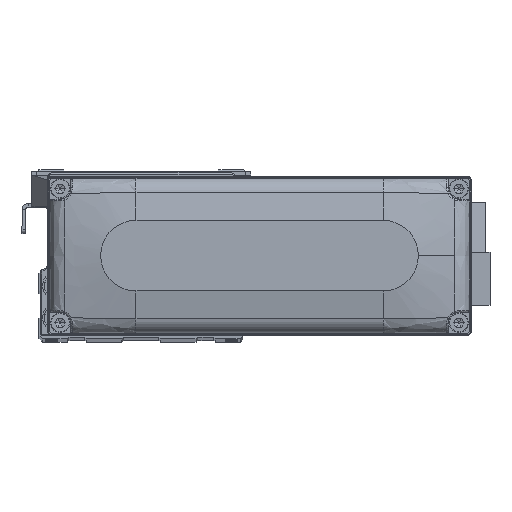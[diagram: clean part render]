
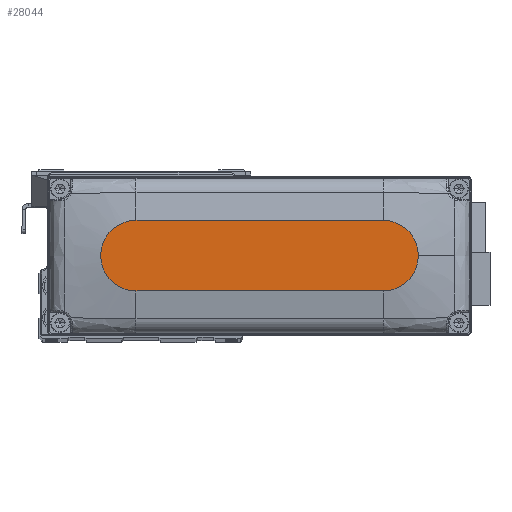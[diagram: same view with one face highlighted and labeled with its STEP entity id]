
A CAD part, top view. The second image highlights one B-rep face of the part: STEP entity #28044.
In plain terms, the highlighted planar face has unit normal (0, 0, 1).
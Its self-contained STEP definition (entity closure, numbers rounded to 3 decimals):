
#2827 = ORIENTED_EDGE ( 'NONE', *, *, #33014, .T. ) ;
#3251 = DIRECTION ( 'NONE',  ( 0., 0., 1. ) ) ;
#3659 = CARTESIAN_POINT ( 'NONE',  ( -35., -10., 28. ) ) ;
#3934 = CARTESIAN_POINT ( 'NONE',  ( -35., 10., 28. ) ) ;
#5175 = EDGE_LOOP ( 'NONE', ( #15705, #2827, #10066, #30897, #16074 ) ) ;
#5724 = DIRECTION ( 'NONE',  ( 1., 0., 0. ) ) ;
#6460 = DIRECTION ( 'NONE',  ( 1., 0., 0. ) ) ;
#6510 = FACE_OUTER_BOUND ( 'NONE', #5175, .T. ) ;
#6794 = EDGE_CURVE ( 'NONE', #42733, #15713, #10549, .T. ) ;
#6822 = VECTOR ( 'NONE', #17118, 1000. ) ;
#9730 = CARTESIAN_POINT ( 'NONE',  ( -35., 0., 28. ) ) ;
#9798 = CIRCLE ( 'NONE', #34002, 10. ) ;
#10066 = ORIENTED_EDGE ( 'NONE', *, *, #16956, .T. ) ;
#10549 = CIRCLE ( 'NONE', #34775, 10. ) ;
#13768 = VECTOR ( 'NONE', #16841, 1000. ) ;
#15705 = ORIENTED_EDGE ( 'NONE', *, *, #35852, .T. ) ;
#15713 = VERTEX_POINT ( 'NONE', #32895 ) ;
#16074 = ORIENTED_EDGE ( 'NONE', *, *, #30388, .T. ) ;
#16442 = DIRECTION ( 'NONE',  ( 1., 0., 0. ) ) ;
#16841 = DIRECTION ( 'NONE',  ( 1., 0., 0. ) ) ;
#16956 = EDGE_CURVE ( 'NONE', #37367, #42733, #33337, .T. ) ;
#17118 = DIRECTION ( 'NONE',  ( -1., 0., 0. ) ) ;
#18272 = CARTESIAN_POINT ( 'NONE',  ( -35., -10., 28. ) ) ;
#19704 = PLANE ( 'NONE',  #38587 ) ;
#21456 = AXIS2_PLACEMENT_3D ( 'NONE', #22180, #35413, #5724 ) ;
#22180 = CARTESIAN_POINT ( 'NONE',  ( 35., 0., 28. ) ) ;
#22289 = VERTEX_POINT ( 'NONE', #39245 ) ;
#22899 = CARTESIAN_POINT ( 'NONE',  ( 35., 0., 28. ) ) ;
#22931 = DIRECTION ( 'NONE',  ( 0., 0., 1. ) ) ;
#28044 = ADVANCED_FACE ( 'NONE', ( #6510 ), #19704, .T. ) ;
#28658 = CARTESIAN_POINT ( 'NONE',  ( 35., -10., 28. ) ) ;
#30388 = EDGE_CURVE ( 'NONE', #15713, #22289, #40132, .T. ) ;
#30897 = ORIENTED_EDGE ( 'NONE', *, *, #6794, .T. ) ;
#32895 = CARTESIAN_POINT ( 'NONE',  ( 45., 0., 28. ) ) ;
#32925 = CARTESIAN_POINT ( 'NONE',  ( 0., 0., 28. ) ) ;
#33014 = EDGE_CURVE ( 'NONE', #34980, #37367, #9798, .T. ) ;
#33337 = LINE ( 'NONE', #3659, #13768 ) ;
#33358 = CARTESIAN_POINT ( 'NONE',  ( -35., 10., 28. ) ) ;
#33605 = LINE ( 'NONE', #3934, #6822 ) ;
#34002 = AXIS2_PLACEMENT_3D ( 'NONE', #9730, #22931, #36165 ) ;
#34775 = AXIS2_PLACEMENT_3D ( 'NONE', #22899, #36143, #6460 ) ;
#34980 = VERTEX_POINT ( 'NONE', #33358 ) ;
#35413 = DIRECTION ( 'NONE',  ( 0., 0., 1. ) ) ;
#35852 = EDGE_CURVE ( 'NONE', #22289, #34980, #33605, .T. ) ;
#36143 = DIRECTION ( 'NONE',  ( 0., 0., 1. ) ) ;
#36165 = DIRECTION ( 'NONE',  ( 1., 0., 0. ) ) ;
#37367 = VERTEX_POINT ( 'NONE', #18272 ) ;
#38587 = AXIS2_PLACEMENT_3D ( 'NONE', #32925, #3251, #16442 ) ;
#39245 = CARTESIAN_POINT ( 'NONE',  ( 35., 10., 28. ) ) ;
#40132 = CIRCLE ( 'NONE', #21456, 10. ) ;
#42733 = VERTEX_POINT ( 'NONE', #28658 ) ;
